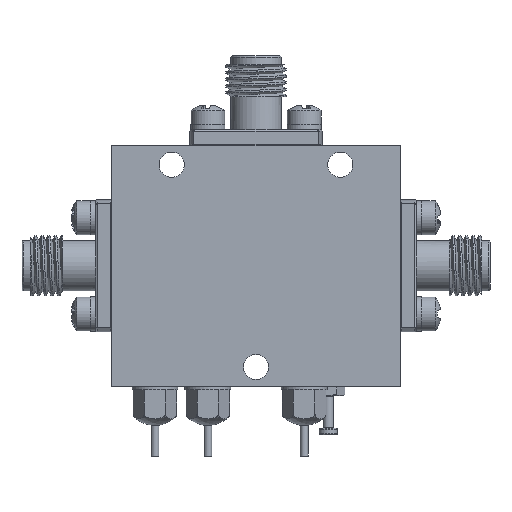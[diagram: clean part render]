
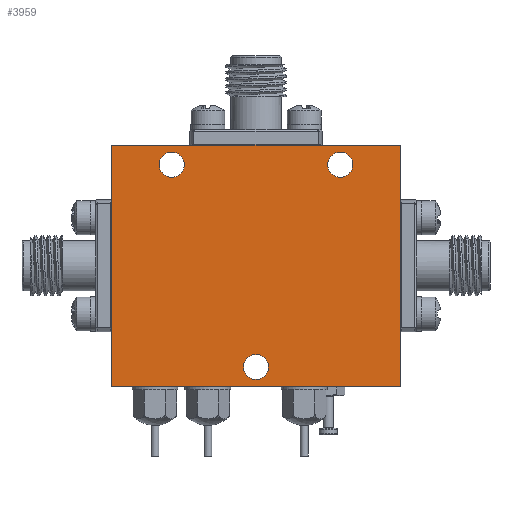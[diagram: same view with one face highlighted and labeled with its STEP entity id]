
A CAD part, front view. The second image highlights one B-rep face of the part: STEP entity #3959.
In plain terms, the highlighted planar face has unit normal (0, -1, 0).
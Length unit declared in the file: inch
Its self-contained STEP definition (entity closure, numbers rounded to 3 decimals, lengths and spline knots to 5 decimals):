
#469 = CARTESIAN_POINT ( 'NONE',  ( -0.6, -0.25, 0.5 ) ) ;
#552 = PLANE ( 'NONE',  #17185 ) ;
#1165 = CARTESIAN_POINT ( 'NONE',  ( -0.35, -0.25, 0.472 ) ) ;
#1247 = EDGE_CURVE ( 'NONE', #22267, #35887, #31997, .T. ) ;
#1515 = AXIS2_PLACEMENT_3D ( 'NONE', #6960, #7630, #20329 ) ;
#2434 = CARTESIAN_POINT ( 'NONE',  ( 0., -0.25, -0.42 ) ) ;
#2631 = EDGE_LOOP ( 'NONE', ( #16802 ) ) ;
#3234 = DIRECTION ( 'NONE',  ( 0., 1., 0. ) ) ;
#3442 = DIRECTION ( 'NONE',  ( 0., 0., 1. ) ) ;
#3539 = CARTESIAN_POINT ( 'NONE',  ( 0., -0.25, -0.368 ) ) ;
#3829 = FACE_BOUND ( 'NONE', #25008, .T. ) ;
#3959 = ADVANCED_FACE ( 'NONE', ( #3829, #37569, #17158, #10174 ), #552, .F. ) ;
#5340 = VECTOR ( 'NONE', #39437, 39.37008 ) ;
#5798 = CARTESIAN_POINT ( 'NONE',  ( -0.6, -0.25, -0.5 ) ) ;
#5981 = LINE ( 'NONE', #22795, #12643 ) ;
#6960 = CARTESIAN_POINT ( 'NONE',  ( 0.35, -0.25, 0.42 ) ) ;
#7151 = AXIS2_PLACEMENT_3D ( 'NONE', #2434, #24790, #12304 ) ;
#7567 = EDGE_LOOP ( 'NONE', ( #13905, #15269, #42010, #15440 ) ) ;
#7630 = DIRECTION ( 'NONE',  ( 0., 1., 0. ) ) ;
#9005 = DIRECTION ( 'NONE',  ( 0., 1., 0. ) ) ;
#9144 = VERTEX_POINT ( 'NONE', #39870 ) ;
#9263 = EDGE_CURVE ( 'NONE', #16274, #16274, #14797, .T. ) ;
#9447 = DIRECTION ( 'NONE',  ( 0., 0., 1. ) ) ;
#9789 = ORIENTED_EDGE ( 'NONE', *, *, #27130, .T. ) ;
#10174 = FACE_OUTER_BOUND ( 'NONE', #7567, .T. ) ;
#10614 = EDGE_CURVE ( 'NONE', #40035, #9144, #5981, .T. ) ;
#10643 = AXIS2_PLACEMENT_3D ( 'NONE', #20515, #3234, #3442 ) ;
#11485 = VECTOR ( 'NONE', #28311, 39.37008 ) ;
#12047 = CARTESIAN_POINT ( 'NONE',  ( -0.6, -0.25, -0.5 ) ) ;
#12304 = DIRECTION ( 'NONE',  ( 0., 0., 1. ) ) ;
#12457 = LINE ( 'NONE', #12047, #5340 ) ;
#12643 = VECTOR ( 'NONE', #28727, 39.37008 ) ;
#13905 = ORIENTED_EDGE ( 'NONE', *, *, #1247, .F. ) ;
#14772 = CARTESIAN_POINT ( 'NONE',  ( -0.6, -0.25, -0.5 ) ) ;
#14797 = CIRCLE ( 'NONE', #1515, 0.052 ) ;
#15269 = ORIENTED_EDGE ( 'NONE', *, *, #42996, .F. ) ;
#15328 = CARTESIAN_POINT ( 'NONE',  ( 0., -0.25, 0. ) ) ;
#15440 = ORIENTED_EDGE ( 'NONE', *, *, #40144, .F. ) ;
#16274 = VERTEX_POINT ( 'NONE', #29632 ) ;
#16802 = ORIENTED_EDGE ( 'NONE', *, *, #17123, .T. ) ;
#17123 = EDGE_CURVE ( 'NONE', #37537, #37537, #23211, .T. ) ;
#17158 = FACE_BOUND ( 'NONE', #25305, .T. ) ;
#17185 = AXIS2_PLACEMENT_3D ( 'NONE', #15328, #9005, #9447 ) ;
#19840 = VECTOR ( 'NONE', #31272, 39.37008 ) ;
#20329 = DIRECTION ( 'NONE',  ( 0., 0., 1. ) ) ;
#20515 = CARTESIAN_POINT ( 'NONE',  ( -0.35, -0.25, 0.42 ) ) ;
#21241 = LINE ( 'NONE', #469, #19840 ) ;
#22267 = VERTEX_POINT ( 'NONE', #5798 ) ;
#22795 = CARTESIAN_POINT ( 'NONE',  ( 0.6, -0.25, -0.5 ) ) ;
#23211 = CIRCLE ( 'NONE', #10643, 0.052 ) ;
#24790 = DIRECTION ( 'NONE',  ( 0., 1., 0. ) ) ;
#24844 = CARTESIAN_POINT ( 'NONE',  ( -0.6, -0.25, 0.5 ) ) ;
#25008 = EDGE_LOOP ( 'NONE', ( #9789 ) ) ;
#25305 = EDGE_LOOP ( 'NONE', ( #41116 ) ) ;
#27130 = EDGE_CURVE ( 'NONE', #39699, #39699, #35827, .T. ) ;
#28311 = DIRECTION ( 'NONE',  ( 0., 0., 1. ) ) ;
#28727 = DIRECTION ( 'NONE',  ( 0., 0., -1. ) ) ;
#29632 = CARTESIAN_POINT ( 'NONE',  ( 0.35, -0.25, 0.472 ) ) ;
#31272 = DIRECTION ( 'NONE',  ( 1., 0., 0. ) ) ;
#31997 = LINE ( 'NONE', #14772, #11485 ) ;
#35827 = CIRCLE ( 'NONE', #7151, 0.052 ) ;
#35887 = VERTEX_POINT ( 'NONE', #24844 ) ;
#37537 = VERTEX_POINT ( 'NONE', #1165 ) ;
#37569 = FACE_BOUND ( 'NONE', #2631, .T. ) ;
#39437 = DIRECTION ( 'NONE',  ( -1., 0., 0. ) ) ;
#39699 = VERTEX_POINT ( 'NONE', #3539 ) ;
#39870 = CARTESIAN_POINT ( 'NONE',  ( 0.6, -0.25, -0.5 ) ) ;
#40035 = VERTEX_POINT ( 'NONE', #40412 ) ;
#40144 = EDGE_CURVE ( 'NONE', #35887, #40035, #21241, .T. ) ;
#40412 = CARTESIAN_POINT ( 'NONE',  ( 0.6, -0.25, 0.5 ) ) ;
#41116 = ORIENTED_EDGE ( 'NONE', *, *, #9263, .T. ) ;
#42010 = ORIENTED_EDGE ( 'NONE', *, *, #10614, .F. ) ;
#42996 = EDGE_CURVE ( 'NONE', #9144, #22267, #12457, .T. ) ;
